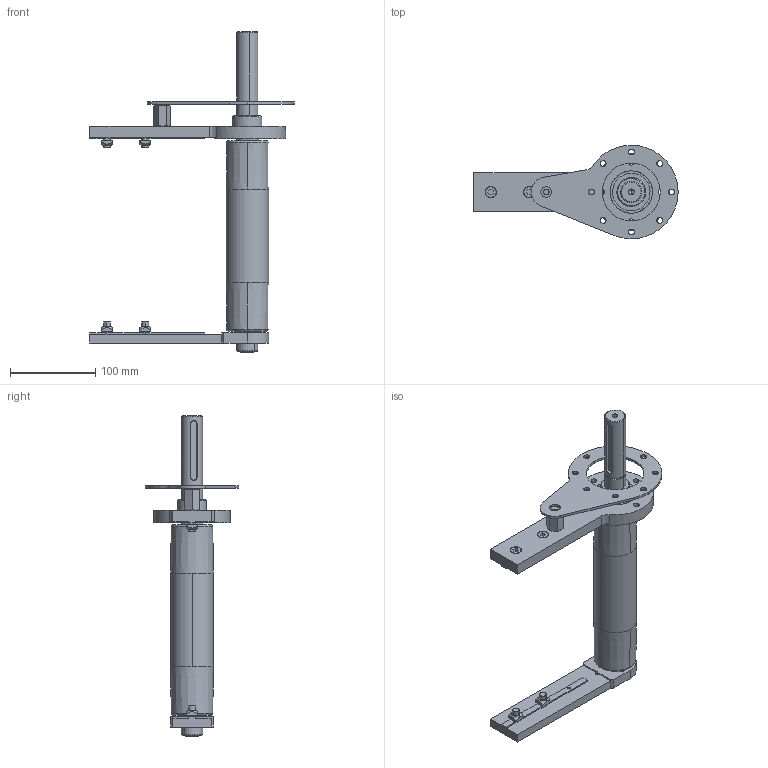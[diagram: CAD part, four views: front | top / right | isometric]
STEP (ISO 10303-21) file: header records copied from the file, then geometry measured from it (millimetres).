
FILE_DESCRIPTION (( 'STEP AP203' ), '1' );
FILE_NAME ('084.050.KD.49.200.step', '2014-02-18T11:35:34', ( '' ), ( '' ), 'SwSTEP 2.0', 'SolidWorks 2012', '' );
FILE_SCHEMA (( 'CONFIG_CONTROL_DESIGN' ));
Length unit declared in the file: millimetre
Products named in the file (13): 084.050.KD.49.200; 084.811.003; 084.802.034_084.802.034; 084.807.001_084.807.001; 084.808.004; 084.802.027; 084.302.000 DADI ALUSIC 13x13_084.302.004; 084.301.000 VITI ALUSIC_084.301.003; 084.810.001; 084.815.103_Default<A macchina>; 084.811.004; 084.802.017_084.802.017; 084.807.002_084.807.002
Assembly tree (19 placements, depth 2):
  084.050.KD.49.200
    084.807.002_084.807.002
    084.802.017_084.802.017
    084.811.004
    084.815.103_Default<A macchina>
    084.810.001  x2
    084.301.000 VITI ALUSIC_084.301.003  x4
    084.302.000 DADI ALUSIC 13x13_084.302.004  x4
    084.802.027
    084.808.004
    084.807.001_084.807.001
    084.802.034_084.802.034
    084.811.003
Bounding box: 240 x 110 x 377 mm (x, y, z)
Volume: 553330.9 mm3; surface area: 254422.8 mm2
Topology: 24 solids, 25 shells, 591 faces, 1478 edges, 958 vertices
Faces by surface type: plane 235, cylinder 228, torus 68, cone 51, sphere 9
Entity records: 15999 total; most frequent: CARTESIAN_POINT 2913, DIRECTION 2626, ORIENTED_EDGE 2276, EDGE_CURVE 1138, AXIS2_PLACEMENT_3D 1060, VERTEX_POINT 739, CIRCLE 585, EDGE_LOOP 551
